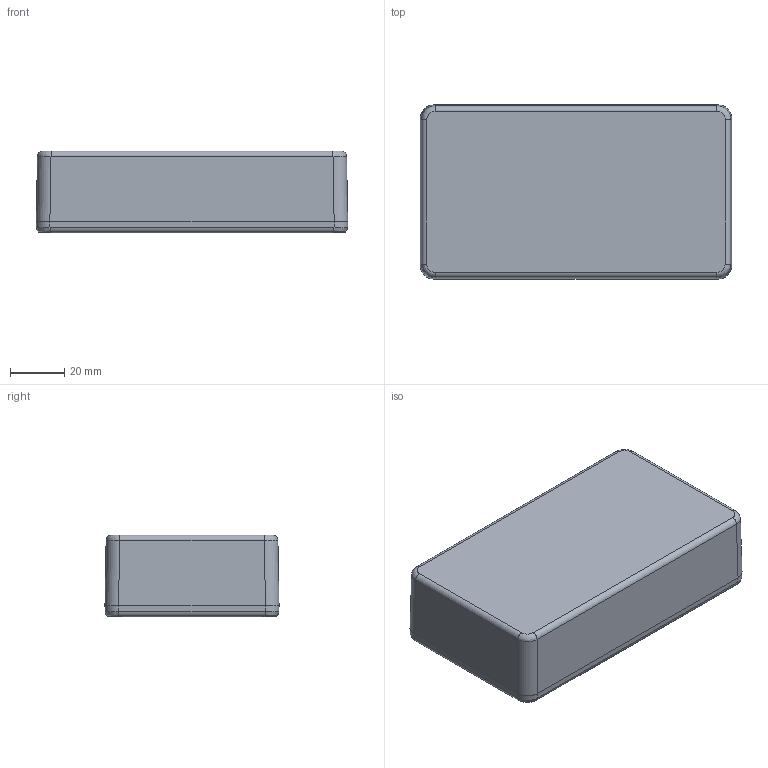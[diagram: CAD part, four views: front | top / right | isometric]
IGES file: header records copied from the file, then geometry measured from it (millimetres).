
Global section: file name: 1550B.iam; native system: Autodesk Inventor 2014; preprocessor: unknown; author: fwarzocha; date: 20141029.101316; units: millimetre
Bounding box: 114.5 x 64 x 30.1 mm (x, y, z)
Volume: 43028.8 mm3; surface area: 50105 mm2
Topology: 6 solids, 6 shells, 885 faces, 2374 edges, 1552 vertices
Faces by surface type: plane 359, bspline 346, revolution 116, cylinder 40, cone 24
Full cylindrical faces by diameter (mm): 3.43 x4
